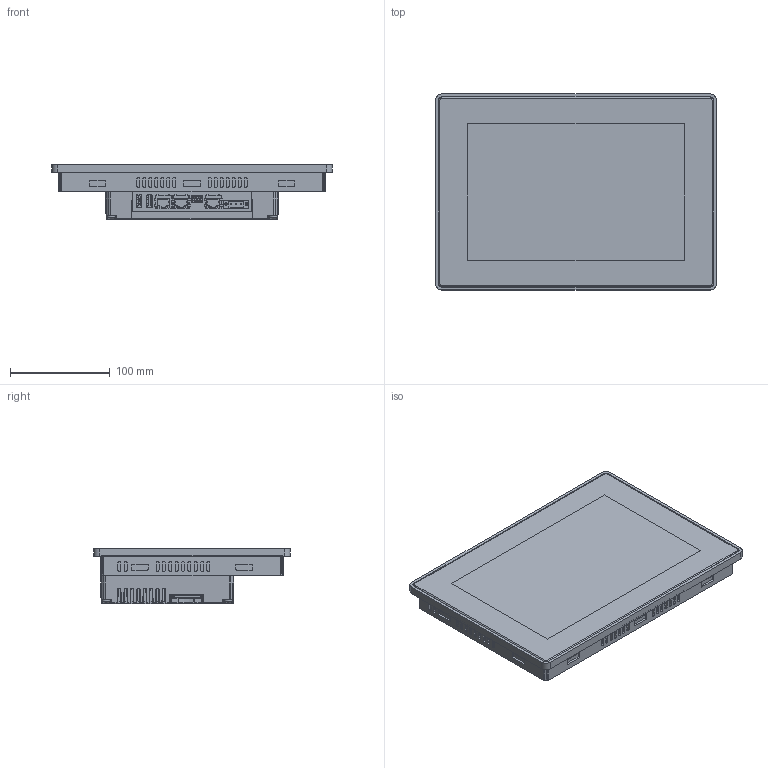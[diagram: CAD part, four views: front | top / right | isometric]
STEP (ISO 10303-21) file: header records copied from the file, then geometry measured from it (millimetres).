
FILE_DESCRIPTION (( 'STEP AP203' ), '1' );
FILE_NAME ('eX710.STEP', '2021-06-14T08:10:17', ( '' ), ( '' ), 'SwSTEP 2.0', 'SolidWorks 2020', '' );
FILE_SCHEMA (( 'CONFIG_CONTROL_DESIGN' ));
Products named in the file (1): eX710
Bounding box: 282 x 197 x 56.2 mm (x, y, z)
Volume: 1967559.5 mm3; surface area: 215540.2 mm2
Topology: 1 solids, 5 shells, 6501 faces, 16729 edges, 10350 vertices
Faces by surface type: plane 4093, cylinder 1385, bspline 469, torus 211, sphere 184, cone 159
Entity records: 211010 total; most frequent: CARTESIAN_POINT 56742, ORIENTED_EDGE 33416, DIRECTION 29959, EDGE_CURVE 16708, VECTOR 12307, LINE 12307, VERTEX_POINT 10350, AXIS2_PLACEMENT_3D 8826
